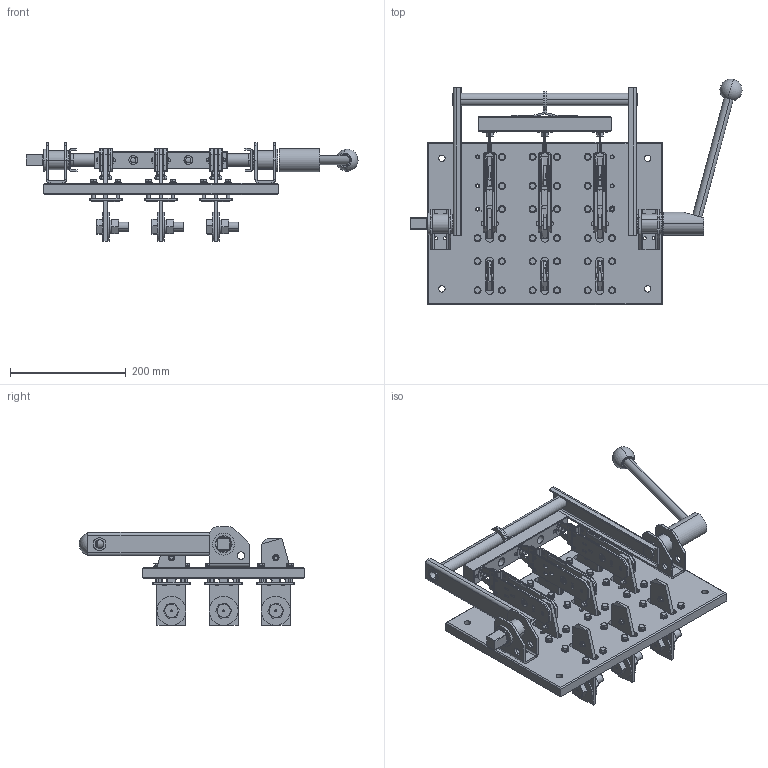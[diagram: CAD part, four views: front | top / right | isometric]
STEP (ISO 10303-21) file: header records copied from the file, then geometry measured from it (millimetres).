
FILE_DESCRIPTION (( 'STEP AP203' ), '1' );
FILE_NAME ('ÐÅ19-41(43)-72220.STEP', '2016-10-17T07:29:38', ( 'user' ), ( '' ), 'SwSTEP 2.0', 'SolidWorks 2010', '' );
FILE_SCHEMA (( 'CONFIG_CONTROL_DESIGN' ));
Length unit declared in the file: millimetre
Products named in the file (1): 陓19-41(43)-72220
Bounding box: 572.55 x 389.08 x 170.05 mm (x, y, z)
Surface area: 912598.9 mm2 (no closed solid volume)
Topology: 0 solids, 288 shells, 2289 faces, 7091 edges, 4989 vertices
Faces by surface type: plane 1109, cylinder 954, cone 118, torus 56, sphere 50, bspline 2
Entity records: 80932 total; most frequent: CARTESIAN_POINT 17476, DIRECTION 13923, ORIENTED_EDGE 11324, EDGE_CURVE 7002, AXIS2_PLACEMENT_3D 5211, VERTEX_POINT 4950, VECTOR 3501, LINE 3501
